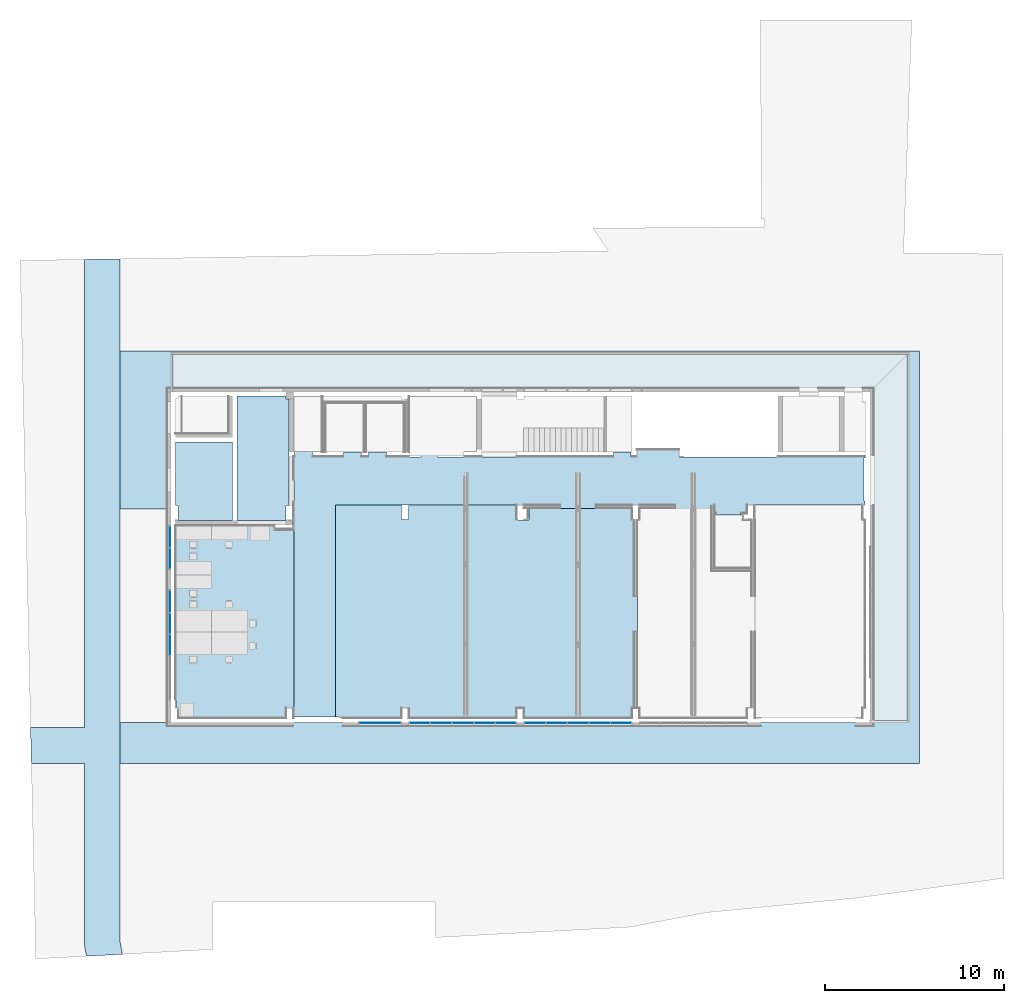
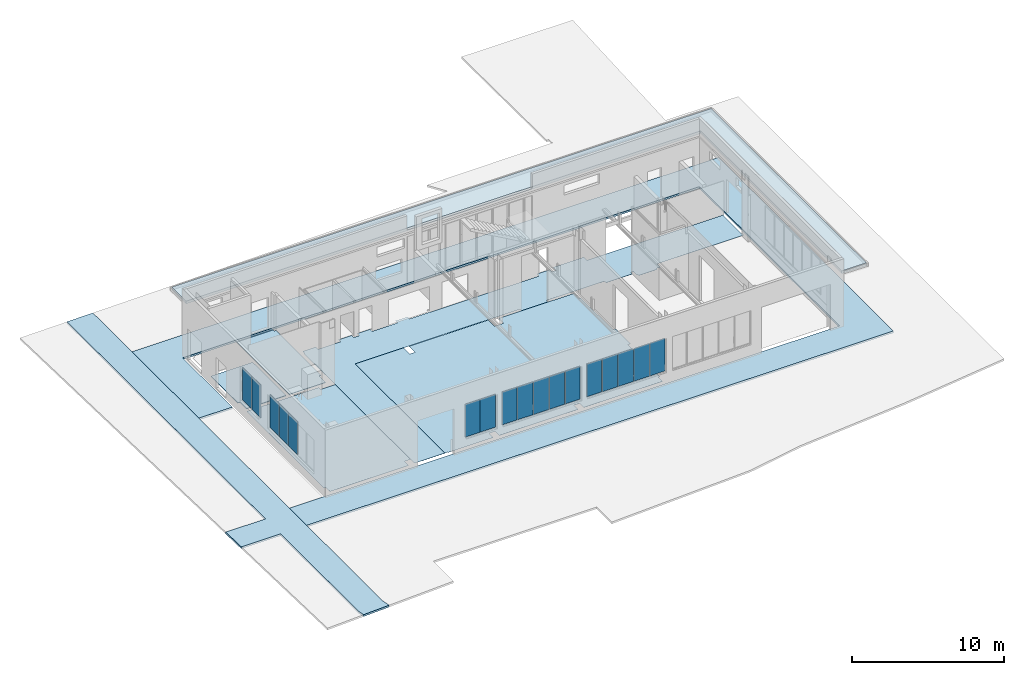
# One storey, part 7 of 27: 17 plates, 10 slabs, 5 elements without a shape of their own.
"""IFC2X3 building model written with IfcOpenShell, lengths in centimetres."""

from ifc_helpers import new_model, entity, si_unit, converted_unit, derived_unit, direction, frame, frame_2d, origin, origin_2d_with_axis, place, context, subcontext, project, spatial, polyline, rectangle, outline, extrude, clip, bounded_halfspace, source, transform, mapped, material, layer, layer_set, layer_usage, type_object, type_shapes, element, aggregate, save


model = new_model("IFC2X3")

# Units and contexts
model_context = context("Model", 3, precision=0.001, world=origin(), true_north=direction((6.12303176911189e-17, 1.0)))
body_context = subcontext(model_context, "Body", "Model", "MODEL_VIEW")
ifc_project = project(units=[si_unit("LENGTHUNIT", "METRE", prefix="CENTI"), si_unit("AREAUNIT", "SQUARE_METRE"), si_unit("VOLUMEUNIT", "CUBIC_METRE"), converted_unit("PLANEANGLEUNIT", "DEGREE", entity("IfcRatioMeasure", 0.0174532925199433), si_unit("PLANEANGLEUNIT", "RADIAN"), dimensions=[0, 0, 0, 0, 0, 0, 0]), si_unit("MASSUNIT", "GRAM", prefix="KILO"), derived_unit("MASSDENSITYUNIT", [(si_unit("MASSUNIT", "GRAM", prefix="KILO"), 1), (si_unit("LENGTHUNIT", "METRE"), -3)]), derived_unit("MOMENTOFINERTIAUNIT", [(si_unit("LENGTHUNIT", "METRE"), 4)]), si_unit("TIMEUNIT", "SECOND"), si_unit("FREQUENCYUNIT", "HERTZ"), si_unit("THERMODYNAMICTEMPERATUREUNIT", "DEGREE_CELSIUS"), derived_unit("THERMALTRANSMITTANCEUNIT", [(si_unit("MASSUNIT", "GRAM", prefix="KILO"), 1), (si_unit("THERMODYNAMICTEMPERATUREUNIT", "KELVIN"), -1), (si_unit("TIMEUNIT", "SECOND"), -3)]), derived_unit("VOLUMETRICFLOWRATEUNIT", [(si_unit("LENGTHUNIT", "METRE"), 3), (si_unit("TIMEUNIT", "SECOND"), -1)]), si_unit("ELECTRICCURRENTUNIT", "AMPERE"), si_unit("ELECTRICVOLTAGEUNIT", "VOLT"), si_unit("POWERUNIT", "WATT"), si_unit("FORCEUNIT", "NEWTON", prefix="KILO"), si_unit("ILLUMINANCEUNIT", "LUX"), si_unit("LUMINOUSFLUXUNIT", "LUMEN"), si_unit("LUMINOUSINTENSITYUNIT", "CANDELA"), derived_unit("USERDEFINED", [(si_unit("MASSUNIT", "GRAM", prefix="KILO"), -1), (si_unit("LENGTHUNIT", "METRE"), -2), (si_unit("TIMEUNIT", "SECOND"), 3), (si_unit("LUMINOUSFLUXUNIT", "LUMEN"), 1)]), derived_unit("LINEARVELOCITYUNIT", [(si_unit("LENGTHUNIT", "METRE"), 1), (si_unit("TIMEUNIT", "SECOND"), -1)]), si_unit("PRESSUREUNIT", "PASCAL"), derived_unit("USERDEFINED", [(si_unit("LENGTHUNIT", "METRE"), -2), (si_unit("MASSUNIT", "GRAM", prefix="KILO"), 1), (si_unit("TIMEUNIT", "SECOND"), -2)]), derived_unit("LINEARFORCEUNIT", [(si_unit("MASSUNIT", "GRAM", prefix="KILO"), 1), (si_unit("LENGTHUNIT", "METRE"), 1), (si_unit("TIMEUNIT", "SECOND"), -2), (si_unit("LENGTHUNIT", "METRE"), -1)]), derived_unit("PLANARFORCEUNIT", [(si_unit("MASSUNIT", "GRAM", prefix="KILO"), 1), (si_unit("LENGTHUNIT", "METRE"), 1), (si_unit("TIMEUNIT", "SECOND"), -2), (si_unit("LENGTHUNIT", "METRE"), -2)])], contexts=[model_context])

# Site, building, storey
site_placement = place(None, origin())
site = spatial("IfcSite", under=ifc_project, at=site_placement, Name="Default", CompositionType="ELEMENT")
building_placement = place(site_placement, origin())
building = spatial("IfcBuilding", under=site, at=building_placement, CompositionType="ELEMENT")
storey_placement = place(building_placement, origin())
storey = spatial("IfcBuildingStorey", under=building, at=storey_placement, Name="Poziom 0 A +/-0,00", CompositionType="ELEMENT", Elevation=3.38570427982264e-11)

# Slabs
ifc_material_1 = material(Name="_Metal krata pomostowa")
ifc_layer_1 = layer(ifc_material_1, 3.0)
ifc_layer_set_1 = layer_set([ifc_layer_1], Name="Strop:Podłoga techniczna z płyt pomostowych 3 cm")
ifc_layer_usage_1 = layer_usage(ifc_layer_set_1, "AXIS3", "POSITIVE", 0.0)
slab_type_1 = type_object("IfcSlabType", Name="Strop:Podłoga techniczna z płyt pomostowych 3 cm", PredefinedType="FLOOR", material=ifc_layer_set_1)
slab_1_placement = place(storey_placement, origin())
element("IfcSlab", 1, at=slab_1_placement, inside=storey, type_object=slab_type_1, material=ifc_layer_usage_1, Name="Strop:Podłoga techniczna z płyt pomostowych 3 cm", ObjectType="Strop:Podłoga techniczna z płyt pomostowych 3 cm", PredefinedType="FLOOR", context=body_context, shape_type="SweptSolid", body=[
    extrude(outline(polyline([(-365.74999468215, -211.125124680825), (330.250005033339, -211.125124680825), (330.250005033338, 65.3748828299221), (315.250005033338, 65.3748828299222), (315.250005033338, 80.3748828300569), (-279.750015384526, 80.3748828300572), (-279.750015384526, 65.3753590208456), (-365.74999468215, 65.3753590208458), (-365.74999468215, -211.125124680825)])), frame((-2354.6399918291, 1749.87744702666, 0.0), z_axis=(0.0, 0.0, -1.0), x_axis=(0.0, 1.0, 0.0)), (0.0, 0.0, 1.0), 3.0),
])
ifc_layer_usage_2 = layer_usage(ifc_layer_set_1, "AXIS3", "POSITIVE", 0.0)
slab_type_2 = type_object("IfcSlabType", Name="Strop:Podłoga techniczna z płyt pomostowych 3 cm", PredefinedType="FLOOR", material=ifc_layer_set_1)
slab_2_placement = place(storey_placement, origin())
element("IfcSlab", 2, at=slab_2_placement, inside=storey, type_object=slab_type_2, material=ifc_layer_usage_2, Name="Strop:Podłoga techniczna z płyt pomostowych 3 cm", ObjectType="Strop:Podłoga techniczna z płyt pomostowych 3 cm", PredefinedType="FLOOR", context=body_context, shape_type="SweptSolid", body=[
    extrude(outline(polyline([(-89.6186405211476, -111.166666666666), (265.237281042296, -111.166666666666), (265.237281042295, 207.333333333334), (-175.618640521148, 207.333333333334), (-175.618640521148, -96.1666666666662), (-89.6186405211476, -96.1666666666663), (-89.6186405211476, -111.166666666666)])), frame((-2798.09844984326, 1559.79017101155, 0.0), z_axis=(0.0, 0.0, -1.0), x_axis=(0.0, 1.0, 0.0)), (0.0, 0.0, 1.0), 3.0),
])

# Curtain wall, plate
curtain_wall_type = type_object("IfcCurtainWallType", PredefinedType="NOTDEFINED")
curtain_wall_1_placement = place(storey_placement, origin())
curtain_wall_1 = element("IfcCurtainWall", 3, at=curtain_wall_1_placement, inside=storey, type_object=curtain_wall_type)
ifc_material_2 = material(Name="Szkło")
plate_type_1 = type_object("IfcPlateType", Name="Panel systemowy:Przeszklony", PredefinedType="CURTAIN_PANEL", material=ifc_material_2)
shared_shape_1 = source(origin(), body_context, "Body", "SweptSolid", [
    extrude(rectangle(XDim=2.5, YDim=113.502309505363, at=frame_2d((0.0, 3.5527136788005e-15), x_axis=(1.0, 0.0))), frame((0.0, 0.0, 0.0), z_axis=(0.0, 0.0, 1.0), x_axis=(0.0, 1.0, 0.0)), (0.0, 0.0, 1.0), 264.999999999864),
])
type_shapes(plate_type_1, [shared_shape_1])
plate_1_placement = place(curtain_wall_1_placement, frame((-1542.51383415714, 251.127499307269, 105.0)))
plate_1 = element("IfcPlate", 4, at=plate_1_placement, type_object=plate_type_1, material=ifc_material_2, Name="Panel systemowy:Przeszklony", ObjectType="Panel systemowy:Przeszklony", context=body_context, shape_type="MappedRepresentation", body=[
    mapped(shared_shape_1, transform((0.0, 0.0, 0.0), scale=1.0)),
])

curtain_wall_2_placement = place(storey_placement, origin())
curtain_wall_2 = element("IfcCurtainWall", 5, at=curtain_wall_2_placement, inside=storey, type_object=curtain_wall_type)
plate_2_placement = place(curtain_wall_2_placement, frame((-897.513834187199, 251.127499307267, 105.0)))
plate_2 = element("IfcPlate", 6, at=plate_2_placement, type_object=plate_type_1, material=ifc_material_2, Name="Panel systemowy:Przeszklony", ObjectType="Panel systemowy:Przeszklony", context=body_context, shape_type="MappedRepresentation", body=[
    mapped(shared_shape_1, transform((0.0, 0.0, 0.0), scale=1.0)),
])

# Plate
plate_type_2 = type_object("IfcPlateType", Name="Panel systemowy:Przeszklony", PredefinedType="CURTAIN_PANEL", material=ifc_material_2)
shared_shape_2 = source(origin(), body_context, "Body", "SweptSolid", [
    extrude(rectangle(XDim=2.5, YDim=116.00000002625, at=origin_2d_with_axis()), frame((0.0, 0.0, 0.0), z_axis=(0.0, 0.0, 1.0), x_axis=(0.0, 1.0, 0.0)), (0.0, 0.0, 1.0), 264.999999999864),
])
type_shapes(plate_type_2, [shared_shape_2])
plate_3_placement = place(curtain_wall_1_placement, frame((-1422.76267939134, 251.127499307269, 105.0)))
plate_3 = element("IfcPlate", 7, at=plate_3_placement, type_object=plate_type_2, material=ifc_material_2, Name="Panel systemowy:Przeszklony", ObjectType="Panel systemowy:Przeszklony", context=body_context, shape_type="MappedRepresentation", body=[
    mapped(shared_shape_2, transform((0.0, 0.0, 0.0), scale=1.0)),
])

plate_4_placement = place(curtain_wall_1_placement, frame((-1180.76267511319, 251.127499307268, 105.0)))
plate_4 = element("IfcPlate", 8, at=plate_4_placement, type_object=plate_type_2, material=ifc_material_2, Name="Panel systemowy:Przeszklony", ObjectType="Panel systemowy:Przeszklony", context=body_context, shape_type="MappedRepresentation", body=[
    mapped(shared_shape_2, transform((0.0, 0.0, 0.0), scale=1.0)),
])

plate_5_placement = place(curtain_wall_2_placement, frame((-777.762679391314, 251.127499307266, 105.0)))
plate_5 = element("IfcPlate", 9, at=plate_5_placement, type_object=plate_type_2, material=ifc_material_2, Name="Panel systemowy:Przeszklony", ObjectType="Panel systemowy:Przeszklony", context=body_context, shape_type="MappedRepresentation", body=[
    mapped(shared_shape_2, transform((0.0, 0.0, 0.0), scale=1.0)),
])

plate_6_placement = place(curtain_wall_2_placement, frame((-535.762675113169, 251.127499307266, 105.0)))
plate_6 = element("IfcPlate", 10, at=plate_6_placement, type_object=plate_type_2, material=ifc_material_2, Name="Panel systemowy:Przeszklony", ObjectType="Panel systemowy:Przeszklony", context=body_context, shape_type="MappedRepresentation", body=[
    mapped(shared_shape_2, transform((0.0, 0.0, 0.0), scale=1.0)),
])

# Curtain wall, plates
curtain_wall_3_placement = place(storey_placement, origin())
curtain_wall_3 = element("IfcCurtainWall", 11, at=curtain_wall_3_placement, inside=storey, type_object=curtain_wall_type)
plate_7_placement = place(curtain_wall_3_placement, frame((-2938.26510381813, 688.62762565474, 105.0), z_axis=(0.0, 0.0, 1.0), x_axis=(0.0, 1.0, 0.0)))
plate_7 = element("IfcPlate", 12, at=plate_7_placement, type_object=plate_type_2, material=ifc_material_2, Name="Panel systemowy:Przeszklony", ObjectType="Panel systemowy:Przeszklony", context=body_context, shape_type="MappedRepresentation", body=[
    mapped(shared_shape_2, transform((0.0, 0.0, 0.0), scale=1.0)),
])
plate_8_placement = place(curtain_wall_3_placement, frame((-2938.26510381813, 809.627625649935, 105.0), z_axis=(0.0, 0.0, 1.0), x_axis=(0.0, 1.0, 0.0)))
plate_8 = element("IfcPlate", 13, at=plate_8_placement, type_object=plate_type_2, material=ifc_material_2, Name="Panel systemowy:Przeszklony", ObjectType="Panel systemowy:Przeszklony", context=body_context, shape_type="MappedRepresentation", body=[
    mapped(shared_shape_2, transform((0.0, 0.0, 0.0), scale=1.0)),
])

# Plate
plate_type_3 = type_object("IfcPlateType", Name="Panel systemowy:Przeszklony", PredefinedType="CURTAIN_PANEL", material=ifc_material_2)
shared_shape_3 = source(origin(), body_context, "Body", "SweptSolid", [
    extrude(rectangle(XDim=2.5, YDim=116.000004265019, at=origin_2d_with_axis()), frame((0.0, 0.0, 0.0), z_axis=(0.0, 0.0, 1.0), x_axis=(0.0, 1.0, 0.0)), (0.0, 0.0, 1.0), 264.999999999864),
])
type_shapes(plate_type_3, [shared_shape_3])
plate_9_placement = place(curtain_wall_1_placement, frame((-1301.7626772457, 251.127499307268, 105.0)))
plate_9 = element("IfcPlate", 14, at=plate_9_placement, type_object=plate_type_3, material=ifc_material_2, Name="Panel systemowy:Przeszklony", ObjectType="Panel systemowy:Przeszklony", context=body_context, shape_type="MappedRepresentation", body=[
    mapped(shared_shape_3, transform((0.0, 0.0, 0.0), scale=1.0)),
])

plate_10_placement = place(curtain_wall_2_placement, frame((-656.762677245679, 251.127499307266, 105.0)))
plate_10 = element("IfcPlate", 15, at=plate_10_placement, type_object=plate_type_3, material=ifc_material_2, Name="Panel systemowy:Przeszklony", ObjectType="Panel systemowy:Przeszklony", context=body_context, shape_type="MappedRepresentation", body=[
    mapped(shared_shape_3, transform((0.0, 0.0, 0.0), scale=1.0)),
])

plate_type_4 = type_object("IfcPlateType", Name="Panel systemowy:Przeszklony", PredefinedType="CURTAIN_PANEL", material=ifc_material_2)
shared_shape_4 = source(origin(), body_context, "Body", "SweptSolid", [
    extrude(rectangle(XDim=2.5, YDim=113.497683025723, at=origin_2d_with_axis()), frame((0.0, 0.0, 0.0), z_axis=(0.0, 0.0, 1.0), x_axis=(0.0, 1.0, 0.0)), (0.0, 0.0, 1.0), 264.999999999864),
])
type_shapes(plate_type_4, [shared_shape_4])
plate_11_placement = place(curtain_wall_1_placement, frame((-1061.01383360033, 251.127499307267, 105.0)))
plate_11 = element("IfcPlate", 16, at=plate_11_placement, type_object=plate_type_4, material=ifc_material_2, Name="Panel systemowy:Przeszklony", ObjectType="Panel systemowy:Przeszklony", context=body_context, shape_type="MappedRepresentation", body=[
    mapped(shared_shape_4, transform((0.0, 0.0, 0.0), scale=1.0)),
])

aggregate(curtain_wall_1, [plate_1, plate_3, plate_9, plate_4, plate_11])

plate_12_placement = place(curtain_wall_2_placement, frame((-416.013833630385, 251.127499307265, 105.0)))
plate_12 = element("IfcPlate", 17, at=plate_12_placement, type_object=plate_type_4, material=ifc_material_2, Name="Panel systemowy:Przeszklony", ObjectType="Panel systemowy:Przeszklony", context=body_context, shape_type="MappedRepresentation", body=[
    mapped(shared_shape_4, transform((0.0, 0.0, 0.0), scale=1.0)),
])

aggregate(curtain_wall_2, [plate_2, plate_5, plate_10, plate_6, plate_12])

plate_type_5 = type_object("IfcPlateType", Name="Panel systemowy:Przeszklony", PredefinedType="CURTAIN_PANEL", material=ifc_material_2)
shared_shape_5 = source(origin(), body_context, "Body", "SweptSolid", [
    extrude(rectangle(XDim=2.5, YDim=118.499825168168, at=origin_2d_with_axis()), frame((0.0, 0.0, 0.0), z_axis=(0.0, 0.0, 1.0), x_axis=(0.0, 1.0, 0.0)), (0.0, 0.0, 1.0), 264.999999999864),
])
type_shapes(plate_type_5, [shared_shape_5])
plate_13_placement = place(curtain_wall_3_placement, frame((-2938.26510381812, 931.877538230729, 105.0), z_axis=(0.0, 0.0, 1.0), x_axis=(0.0, 1.0, 0.0)))
plate_13 = element("IfcPlate", 18, at=plate_13_placement, type_object=plate_type_5, material=ifc_material_2, Name="Panel systemowy:Przeszklony", ObjectType="Panel systemowy:Przeszklony", context=body_context, shape_type="MappedRepresentation", body=[
    mapped(shared_shape_5, transform((0.0, 0.0, 0.0), scale=1.0)),
])

aggregate(curtain_wall_3, [plate_7, plate_8, plate_13])

# Slab
ifc_material_3 = material(Name="Wylewka żywiczna")
ifc_layer_2 = layer(ifc_material_3, 0.6)
ifc_layer_set_2 = layer_set([ifc_layer_2], Name="Strop:Żywica epoksydowa komunikacja parter")
ifc_layer_usage_3 = layer_usage(ifc_layer_set_2, "AXIS3", "POSITIVE", 0.0)
slab_type_3 = type_object("IfcSlabType", Name="Strop:Żywica epoksydowa komunikacja parter", PredefinedType="FLOOR", material=ifc_layer_set_2)
slab_3_placement = place(storey_placement, origin())
element("IfcSlab", 19, at=slab_3_placement, inside=storey, type_object=slab_type_3, material=ifc_layer_usage_3, Name="Strop:Żywica epoksydowa komunikacja parter", ObjectType="Strop:Żywica epoksydowa komunikacja parter", PredefinedType="FLOOR", context=body_context, shape_type="SweptSolid", body=[
    extrude(outline(polyline([(-1289.64259000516, -1527.36001156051), (164.857410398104, -1527.36001156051), (164.857410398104, -1522.35998477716), (194.857410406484, -1522.35998477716), (194.857410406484, -1422.35998477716), (164.857410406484, -1422.35998477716), (164.857410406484, -1249.85996749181), (192.357410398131, -1249.85996749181), (192.357410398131, -1149.85996749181), (164.857410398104, -1149.85996749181), (164.857410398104, -1109.85996761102), (192.35741039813, -1109.85996761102), (192.35741039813, -1009.85996761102), (164.857410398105, -1009.85996761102), (164.857410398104, -814.86001145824), (192.35741039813, -814.860011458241), (192.35741039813, -722.86001145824), (164.857410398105, -722.86001145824), (164.857410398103, 260.140016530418), (192.357410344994, 260.140016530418), (192.357410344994, 360.139988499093), (164.857410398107, 360.139988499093), (164.857410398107, 392.639988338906), (205.42215090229, 392.639988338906), (205.42215090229, 626.140000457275), (164.857409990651, 626.140000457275), (164.85740999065, 1667.63998589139), (159.357410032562, 1667.63998589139), (159.357410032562, 1663.13998851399), (-82.6425899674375, 1663.13998851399), (-82.6425899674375, 1667.63999317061), (-103.142589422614, 1667.63999317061), (-103.142589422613, 1007.63999911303), (-146.642589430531, 1007.63999911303), (-146.642589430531, 975.139988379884), (-159.142589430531, 975.139988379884), (-159.142589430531, 835.139988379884), (-146.642589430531, 835.139988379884), (-146.642589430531, 827.639987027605), (-102.642589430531, 827.639987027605), (-102.642589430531, 807.639987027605), (-123.142589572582, 807.639987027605), (-123.142589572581, 607.639987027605), (-103.142589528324, 607.639987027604), (-103.142589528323, 162.63998838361), (-123.142589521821, 162.63998838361), (-123.142589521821, -37.3600116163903), (-103.142589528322, -37.3600116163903), (-103.14258952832, -1294.36000088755), (-1289.64259000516, -1294.36000088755), (-1289.64259000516, -1527.36001156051)])), frame((-719.405108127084, 1575.7700416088, 0.599999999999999), z_axis=(0.0, 0.0, -1.0), x_axis=(0.0, 1.0, 0.0)), (0.0, 0.0, 1.0), 0.6),
])

# Curtain wall, plates
curtain_wall_4_placement = place(storey_placement, origin())
curtain_wall_4 = element("IfcCurtainWall", 20, at=curtain_wall_4_placement, inside=storey, type_object=curtain_wall_type)
plate_type_6 = type_object("IfcPlateType", Name="Panel systemowy:Przeszklony", PredefinedType="CURTAIN_PANEL", material=ifc_material_2)
shared_shape_6 = source(origin(), body_context, "Body", "SweptSolid", [
    extrude(rectangle(XDim=2.5, YDim=113.0, at=origin_2d_with_axis()), frame((0.0, 0.0, 0.0), z_axis=(0.0, 0.0, 1.0), x_axis=(0.0, 1.0, 0.0)), (0.0, 0.0, 1.0), 264.999999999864),
])
type_shapes(plate_type_6, [shared_shape_6])
plate_14_placement = place(curtain_wall_4_placement, frame((-1824.2625781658, 251.12749930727, 105.0)))
plate_14 = element("IfcPlate", 21, at=plate_14_placement, type_object=plate_type_6, material=ifc_material_2, Name="Panel systemowy:Przeszklony", ObjectType="Panel systemowy:Przeszklony", context=body_context, shape_type="MappedRepresentation", body=[
    mapped(shared_shape_6, transform((0.0, 0.0, 0.0), scale=1.0)),
])
plate_type_7 = type_object("IfcPlateType", Name="Panel systemowy:Przeszklony", PredefinedType="CURTAIN_PANEL", material=ifc_material_2)
shared_shape_7 = source(origin(), body_context, "Body", "SweptSolid", [
    extrude(rectangle(XDim=2.5, YDim=118.497471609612, at=origin_2d_with_axis()), frame((0.0, 0.0, 0.0), z_axis=(0.0, 0.0, 1.0), x_axis=(0.0, 1.0, 0.0)), (0.0, 0.0, 1.0), 264.999999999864),
])
type_shapes(plate_type_7, [shared_shape_7])
plate_15_placement = place(curtain_wall_4_placement, frame((-1708.51384236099, 251.127499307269, 105.0)))
plate_15 = element("IfcPlate", 22, at=plate_15_placement, type_object=plate_type_7, material=ifc_material_2, Name="Panel systemowy:Przeszklony", ObjectType="Panel systemowy:Przeszklony", context=body_context, shape_type="MappedRepresentation", body=[
    mapped(shared_shape_7, transform((0.0, 0.0, 0.0), scale=1.0)),
])
aggregate(curtain_wall_4, [plate_14, plate_15])

# Slab
ifc_layer_3 = layer(ifc_material_1, 4.0)
ifc_layer_set_3 = layer_set([ifc_layer_3], Name="Strop:Krata pomostowa techniczna")
ifc_layer_usage_4 = layer_usage(ifc_layer_set_3, "AXIS3", "POSITIVE", 0.0)
slab_type_4 = type_object("IfcSlabType", Name="Strop:Krata pomostowa techniczna", PredefinedType="FLOOR", material=ifc_layer_set_3)
slab_4_placement = place(storey_placement, origin())
element("IfcSlab", 23, at=slab_4_placement, inside=storey, type_object=slab_type_4, material=ifc_layer_usage_4, Name="Strop:Krata pomostowa techniczna", ObjectType="Strop:Krata pomostowa techniczna", PredefinedType="FLOOR", context=body_context, shape_type="SweptSolid", body=[
    extrude(outline(polyline([(-89.6186405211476, -111.166666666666), (265.237281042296, -111.166666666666), (265.237281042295, 207.333333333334), (-175.618640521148, 207.333333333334), (-175.618640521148, -96.1666666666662), (-89.6186405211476, -96.1666666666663), (-89.6186405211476, -111.166666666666)])), frame((-2798.09844984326, 1559.79017101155, 2.0), z_axis=(0.0, 0.0, -1.0), x_axis=(0.0, 1.0, 0.0)), (0.0, 0.0, 1.0), 4.0),
])

# Curtain wall, plates
curtain_wall_5_placement = place(storey_placement, origin())
curtain_wall_5 = element("IfcCurtainWall", 24, at=curtain_wall_5_placement, inside=storey, type_object=curtain_wall_type)
plate_type_8 = type_object("IfcPlateType", Name="Panel systemowy:Przeszklony", PredefinedType="CURTAIN_PANEL", material=ifc_material_2)
shared_shape_8 = source(origin(), body_context, "Body", "SweptSolid", [
    extrude(rectangle(XDim=2.5, YDim=116.000154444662, at=origin_2d_with_axis()), frame((0.0, 0.0, 0.0), z_axis=(0.0, 0.0, 1.0), x_axis=(0.0, 1.0, 0.0)), (0.0, 0.0, 1.0), 264.999999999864),
])
type_shapes(plate_type_8, [shared_shape_8])
plate_16_placement = place(curtain_wall_5_placement, frame((-2938.26510381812, 1172.62754843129, 105.0), z_axis=(0.0, 0.0, 1.0), x_axis=(0.0, 1.0, 0.0)))
plate_16 = element("IfcPlate", 25, at=plate_16_placement, type_object=plate_type_8, material=ifc_material_2, Name="Panel systemowy:Przeszklony", ObjectType="Panel systemowy:Przeszklony", context=body_context, shape_type="MappedRepresentation", body=[
    mapped(shared_shape_8, transform((0.0, 0.0, 0.0), scale=1.0)),
])
plate_type_9 = type_object("IfcPlateType", Name="Panel systemowy:Przeszklony", PredefinedType="CURTAIN_PANEL", material=ifc_material_2)
shared_shape_9 = source(origin(), body_context, "Body", "SweptSolid", [
    extrude(rectangle(XDim=2.5, YDim=118.499826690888, at=origin_2d_with_axis()), frame((0.0, 0.0, 0.0), z_axis=(0.0, 0.0, 1.0), x_axis=(0.0, 1.0, 0.0)), (0.0, 0.0, 1.0), 264.999999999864),
])
type_shapes(plate_type_9, [shared_shape_9])
plate_17_placement = place(curtain_wall_5_placement, frame((-2938.26510381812, 1294.87753899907, 105.0), z_axis=(0.0, 0.0, 1.0), x_axis=(0.0, 1.0, 0.0)))
plate_17 = element("IfcPlate", 26, at=plate_17_placement, type_object=plate_type_9, material=ifc_material_2, Name="Panel systemowy:Przeszklony", ObjectType="Panel systemowy:Przeszklony", context=body_context, shape_type="MappedRepresentation", body=[
    mapped(shared_shape_9, transform((0.0, 0.0, 0.0), scale=1.0)),
])
aggregate(curtain_wall_5, [plate_16, plate_17])

# Slabs
ifc_material_4 = material(Name="Powierzchnia utwardzona 2")
ifc_layer_4 = layer(ifc_material_4, 15.0)
ifc_layer_set_4 = layer_set([ifc_layer_4], Name="Strop:Powierzchnia utwardzona 1")
ifc_layer_usage_5 = layer_usage(ifc_layer_set_4, "AXIS3", "POSITIVE", 0.0)
slab_type_5 = type_object("IfcSlabType", Name="Strop:Powierzchnia utwardzona 1", PredefinedType="FLOOR", material=ifc_layer_set_4)
slab_5_placement = place(storey_placement, origin())
element("IfcSlab", 27, at=slab_5_placement, inside=storey, type_object=slab_type_5, material=ifc_layer_usage_5, Name="Strop:Powierzchnia utwardzona 1", ObjectType="Strop:Powierzchnia utwardzona 1", PredefinedType="FLOOR", context=body_context, shape_type="SweptSolid", body=[
    extrude(outline(polyline([(215.999743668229, -1784.09999978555), (1099.49974742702, -1784.09999978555), (1099.49974742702, 2687.89999664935), (-1207.4990050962, 2687.89999664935), (-1207.4990050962, -1784.09999978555), (-979.00020909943, -1784.09999978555), (-979.000209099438, 2409.40000272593), (870.999723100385, 2409.40000272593), (870.999723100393, -1529.09999980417), (215.999743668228, -1529.09999980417), (215.999743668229, -1784.09999978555)])), frame((-1433.66510494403, 1234.12770840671, -2.0), z_axis=(0.0, 0.0, -1.0), x_axis=(0.0, 1.0, 0.0)), (0.0, 0.0, 1.0), 15.0),
])
ifc_material_5 = material(Name="Powierzchnia utwardzona 1")
ifc_layer_5 = layer(ifc_material_5, 15.0)
ifc_layer_set_5 = layer_set([ifc_layer_5], Name="Strop:Powierzchnia utwardzona 2")
ifc_layer_usage_6 = layer_usage(ifc_layer_set_5, "AXIS3", "POSITIVE", 0.0)
slab_type_6 = type_object("IfcSlabType", Name="Strop:Powierzchnia utwardzona 2", PredefinedType="FLOOR", material=ifc_layer_set_5)
slab_6_placement = place(storey_placement, origin())
element("IfcSlab", 28, at=slab_6_placement, inside=storey, type_object=slab_type_6, material=ifc_layer_usage_6, Name="Strop:Powierzchnia utwardzona 2", ObjectType="Strop:Powierzchnia utwardzona 2", PredefinedType="FLOOR", context=body_context, shape_type="SweptSolid", body=[
    extrude(outline(polyline([(1354.52215558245, 85.4189213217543), (1422.74019232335, 85.4189213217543), (1396.4259983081, 285.41892138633), (1343.73769560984, 285.418921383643), (333.945927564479, 97.2472216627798), (279.215593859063, 390.948349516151), (81.7771551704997, 358.726486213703), (137.330551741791, 60.608529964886), (-2437.75743153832, -419.251474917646), (-2404.49003171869, -615.061845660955), (-1877.77431009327, -516.909933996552), (370.326503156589, -97.9830180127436), (1354.52215558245, 85.4189213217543)])), frame((-3381.93133802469, 372.737029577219, -2.0), z_axis=(0.0, 0.0, -1.0), x_axis=(0.183193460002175, -0.983076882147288, 0.0)), (0.0, 0.0, 1.0), 15.0),
])
ifc_material_6 = material(Name="Wylewka żywiczna szara")
ifc_layer_6 = layer(ifc_material_6, 0.6)
ifc_layer_set_6 = layer_set([ifc_layer_6], Name="Strop:Żywica epoksydowa pom. techniczne parter 2")
ifc_layer_usage_7 = layer_usage(ifc_layer_set_6, "AXIS3", "POSITIVE", 0.0)
slab_type_7 = type_object("IfcSlabType", Name="Strop:Żywica epoksydowa pom. techniczne parter 2", PredefinedType="FLOOR", material=ifc_layer_set_6)
slab_7_placement = place(storey_placement, origin())
element("IfcSlab", 29, at=slab_7_placement, inside=storey, type_object=slab_type_7, material=ifc_layer_usage_7, Name="Strop:Żywica epoksydowa pom. techniczne parter 2", ObjectType="Strop:Żywica epoksydowa pom. techniczne parter 2", PredefinedType="FLOOR", context=body_context, shape_type="SweptSolid", body=[
    extrude(outline(polyline([(-391.599845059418, -367.999984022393), (627.399949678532, -367.999984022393), (627.399949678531, 181.999967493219), (602.39994937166, 181.999967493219), (602.39994937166, 292.0), (-391.600050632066, 292.0), (-391.600050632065, 247.000013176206), (-446.600003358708, 247.000013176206), (-446.600003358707, -352.99999671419), (-391.599845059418, -352.99999671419), (-391.599845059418, -367.999984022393)])), frame((-2538.76511979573, 729.22750266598, 0.6), z_axis=(0.0, 0.0, -1.0), x_axis=(0.0, 1.0, 0.0)), (0.0, 0.0, 1.0), 0.6),
])
ifc_layer_usage_8 = layer_usage(ifc_layer_set_6, "AXIS3", "POSITIVE", 0.0)
slab_type_8 = type_object("IfcSlabType", Name="Strop:Żywica epoksydowa pom. techniczne parter 2", PredefinedType="FLOOR", material=ifc_layer_set_6)
slab_8_placement = place(storey_placement, origin())
element("IfcSlab", 30, at=slab_8_placement, inside=storey, type_object=slab_type_8, material=ifc_layer_usage_8, Name="Strop:Żywica epoksydowa pom. techniczne parter 2", ObjectType="Strop:Żywica epoksydowa pom. techniczne parter 2", PredefinedType="FLOOR", context=body_context, shape_type="SweptSolid", body=[
    extrude(outline(polyline([(-543.882385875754, -889.205873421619), (642.617614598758, -889.205873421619), (642.617614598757, -519.705873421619), (560.117614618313, -519.705873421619), (560.117614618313, -479.705873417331), (640.117614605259, -479.705873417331), (640.117614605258, 122.794115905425), (560.11761459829, 122.794115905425), (560.11761459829, 132.794115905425), (557.617614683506, 132.794115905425), (557.617614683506, 192.794116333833), (622.617614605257, 192.794116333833), (622.617614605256, 767.794126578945), (557.617614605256, 767.794126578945), (557.617614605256, 780.294115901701), (132.617717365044, 780.294115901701), (132.617717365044, 800.294115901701), (-67.3822826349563, 800.294115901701), (-67.3822826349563, 780.294115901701), (-492.382385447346, 780.294115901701), (-492.382385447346, 767.794001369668), (-547.382338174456, 767.794001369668), (-547.382338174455, 167.794115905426), (-492.382385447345, 167.794115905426), (-492.382385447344, 122.794115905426), (-547.382338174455, 122.794115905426), (-547.382338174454, -477.205884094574), (-492.382179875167, -477.205884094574), (-492.382179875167, -522.205871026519), (-547.382338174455, -522.205871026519), (-547.382338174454, -867.705840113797), (-542.882385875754, -867.705840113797), (-542.882385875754, -879.705840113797), (-543.882385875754, -879.705840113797), (-543.882385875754, -889.205873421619)])), frame((-1124.55923559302, 830.009837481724, 0.6), z_axis=(0.0, 0.0, -1.0), x_axis=(0.0, 1.0, 0.0)), (0.0, 0.0, 1.0), 0.6),
])
ifc_layer_usage_9 = layer_usage(ifc_layer_set_3, "AXIS3", "POSITIVE", 0.0)
slab_type_9 = type_object("IfcSlabType", Name="Strop:Krata pomostowa techniczna", PredefinedType="FLOOR", material=ifc_layer_set_3)
slab_9_placement = place(storey_placement, origin())
element("IfcSlab", 31, at=slab_9_placement, inside=storey, type_object=slab_type_9, material=ifc_layer_usage_9, Name="Strop:Krata pomostowa techniczna", ObjectType="Strop:Krata pomostowa techniczna", PredefinedType="FLOOR", context=body_context, shape_type="SweptSolid", body=[
    extrude(outline(polyline([(-365.749999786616, -211.12499907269), (330.249999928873, -211.12499907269), (330.249999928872, 65.3749953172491), (315.249999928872, 65.3749953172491), (315.249999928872, 80.3750084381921), (-279.750000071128, 80.3750084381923), (-279.750000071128, 65.3749953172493), (-365.749999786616, 65.3749953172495), (-365.749999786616, -211.12499907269)])), frame((-2354.64011743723, 1749.87745213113, 2.0), z_axis=(0.0, 0.0, -1.0), x_axis=(0.0, 1.0, 0.0)), (0.0, 0.0, 1.0), 4.0),
])
ifc_material_7 = material(Name="Wełna mineralna (podłogowa)")
ifc_layer_7 = layer(ifc_material_7, 25.0)
ifc_layer_set_7 = layer_set([ifc_layer_7], Name="Strop:wełna mineralna twarda (dachowa)")
ifc_layer_usage_10 = layer_usage(ifc_layer_set_7, "AXIS3", "POSITIVE", 0.0)
slab_type_10 = type_object("IfcSlabType", Name="Strop:wełna mineralna twarda (dachowa)", PredefinedType="FLOOR", material=ifc_layer_set_7)
slab_10_placement = place(storey_placement, origin())
element("IfcSlab", 32, at=slab_10_placement, inside=storey, type_object=slab_type_10, material=ifc_layer_usage_10, Name="Strop:wełna mineralna twarda (dachowa)", ObjectType="Strop:wełna mineralna twarda (dachowa)", PredefinedType="FLOOR", context=body_context, shape_type="SweptSolid", body=[
    clip(clip(extrude(outline(polyline([(557.999931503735, -2677.33333074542), (745.999931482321, -2677.33333074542), (745.999931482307, 1432.66667043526), (-1303.99986298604, 1432.66667043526), (-1303.99986298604, 1244.66666031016), (557.999931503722, 1244.66666031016), (557.999931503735, -2677.33333074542)])), frame((-246.931775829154, 1569.12752059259, 427.0), z_axis=(0.0, 0.0, -1.0), x_axis=(0.0, 1.0, 0.0)), (0.0, 0.0, 1.0), 24.809090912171), bounded_halfspace(frame((1085.73489283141, 1235.12755484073, 404.1), z_axis=(-0.0190874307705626, 0.0, -0.999817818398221), x_axis=(0.0, -1.0, 0.0)), False, frame((-246.931775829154, 1569.12752059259, 427.0), z_axis=(0.0, 0.0, -1.0), x_axis=(0.0, 1.0, 0.0)), polyline([(557.999931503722, 1244.66666031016), (745.999931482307, 1432.66667043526), (-1303.99986298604, 1432.66667043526), (-1303.99986298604, 1244.66666031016), (557.999931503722, 1244.66666031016)]))), bounded_halfspace(frame((-924.26510687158, 2215.12745207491, 404.1), z_axis=(0.0, -0.0190874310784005, -0.999817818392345), x_axis=(1.0, 0.0, 0.0)), False, frame((-246.931775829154, 1569.12752059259, 427.0), z_axis=(0.0, 0.0, -1.0), x_axis=(0.0, 1.0, 0.0)), polyline([(745.999931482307, 1432.66667043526), (557.999931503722, 1244.66666031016), (557.999931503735, -2677.33333074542), (745.999931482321, -2677.33333074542), (745.999931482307, 1432.66667043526)]))),
])

save(model, "model.ifc")
